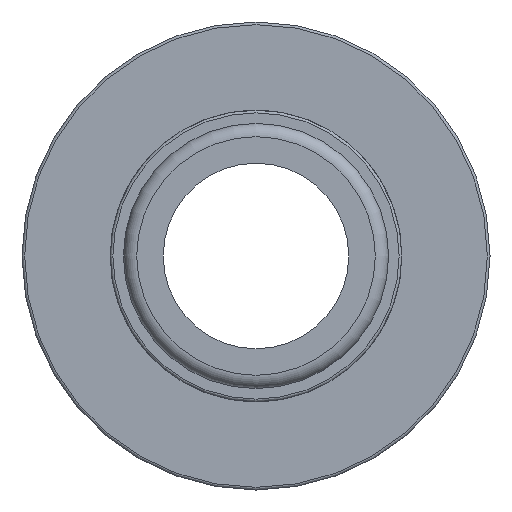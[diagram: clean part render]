
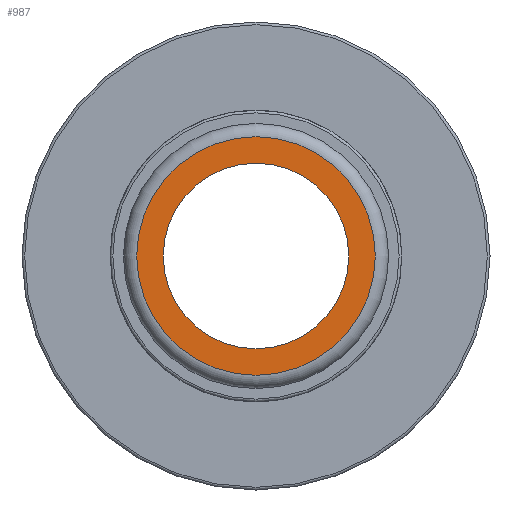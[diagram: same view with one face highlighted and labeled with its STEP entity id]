
A CAD part, left-side view. The second image highlights one B-rep face of the part: STEP entity #987.
In plain terms, the highlighted planar face has unit normal (-1, 0, 0).
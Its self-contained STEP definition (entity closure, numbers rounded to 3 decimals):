
#181=PLANE('',#1101);
#217=FACE_BOUND('',#343,.T.);
#273=FACE_OUTER_BOUND('',#342,.T.);
#342=EDGE_LOOP('',(#913));
#343=EDGE_LOOP('',(#914));
#402=CIRCLE('',#1099,9.43);
#404=CIRCLE('',#1102,7.334);
#500=VERTEX_POINT('',#1872);
#502=VERTEX_POINT('',#1877);
#640=EDGE_CURVE('',#500,#500,#402,.T.);
#642=EDGE_CURVE('',#502,#502,#404,.T.);
#913=ORIENTED_EDGE('',*,*,#640,.F.);
#914=ORIENTED_EDGE('',*,*,#642,.T.);
#987=ADVANCED_FACE('',(#273,#217),#181,.T.);
#1099=AXIS2_PLACEMENT_3D('',#1873,#1380,#1381);
#1101=AXIS2_PLACEMENT_3D('',#1876,#1384,#1385);
#1102=AXIS2_PLACEMENT_3D('',#1878,#1386,#1387);
#1380=DIRECTION('center_axis',(1.,0.,0.));
#1381=DIRECTION('ref_axis',(0.,-1.,0.));
#1384=DIRECTION('center_axis',(-1.,0.,0.));
#1385=DIRECTION('ref_axis',(0.,0.,1.));
#1386=DIRECTION('center_axis',(1.,0.,0.));
#1387=DIRECTION('ref_axis',(0.,0.,-1.));
#1872=CARTESIAN_POINT('',(-79.,9.43,0.));
#1873=CARTESIAN_POINT('Origin',(-79.,0.,0.));
#1876=CARTESIAN_POINT('Origin',(-79.,10.478,0.));
#1877=CARTESIAN_POINT('',(-79.,7.334,0.));
#1878=CARTESIAN_POINT('Origin',(-79.,0.,0.));
